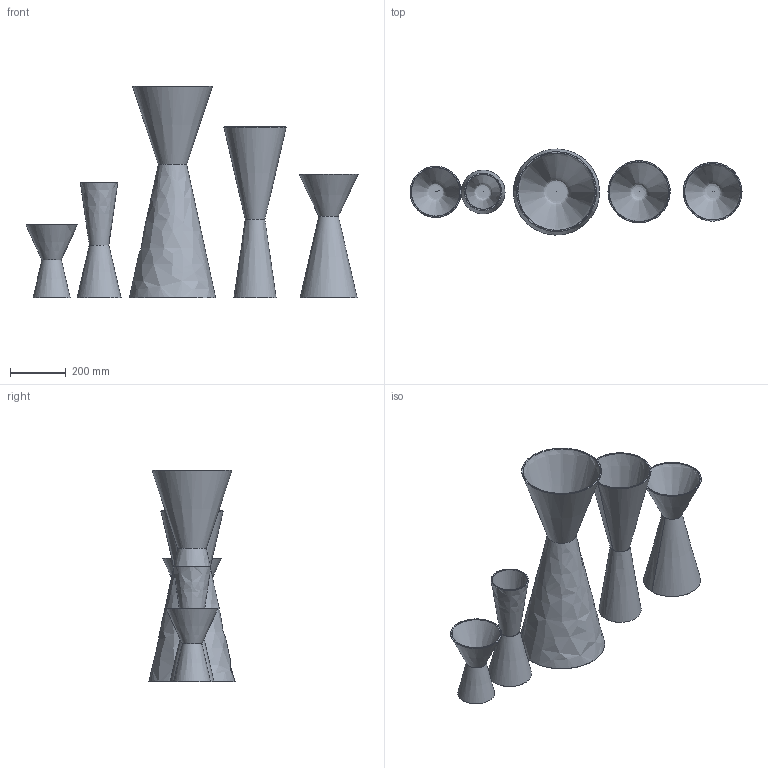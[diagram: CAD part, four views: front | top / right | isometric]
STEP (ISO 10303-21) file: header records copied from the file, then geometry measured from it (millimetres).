
FILE_DESCRIPTION(/* description */ (''),/* implementation_level */ '2;1');
FILE_NAME(/* name */ 'SkLO_TaperVesel_3D',/* time_stamp */ '2024-08-09T08:47:58+02:00',/* author */ (''),/* organization */ (''),/* preprocessor_version */ 'ST-DEVELOPER v16.5',/* originating_system */ 'Rhino 7.34',/* authorisation */ '');
FILE_SCHEMA (('CONFIG_CONTROL_DESIGN'));
Length unit declared in the file: millimetre
Products named in the file (1): Document
Bounding box: 1194.2 x 309.44 x 761.5 mm (x, y, z)
Volume: 7166833.9 mm3; surface area: 3465300.9 mm2
Topology: 5 solids, 15 shells, 62 faces, 143 edges, 81 vertices
Faces by surface type: bspline 62
Entity records: 8908 total; most frequent: CARTESIAN_POINT 8077, ORIENTED_EDGE 236, EDGE_CURVE 123, VERTEX_POINT 81, ADVANCED_FACE 62, FACE_OUTER_BOUND 62, EDGE_LOOP 62, B_SPLINE_CURVE_WITH_KNOTS 58
